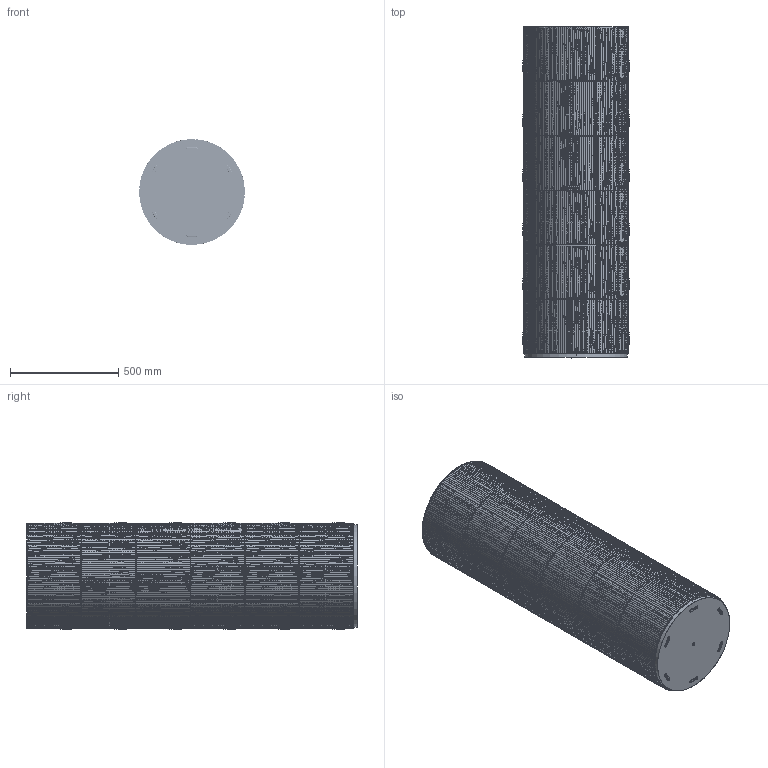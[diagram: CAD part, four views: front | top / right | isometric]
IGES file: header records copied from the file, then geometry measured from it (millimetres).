
Start section: SolidWorks IGES file using analytic representation for surfaces
Global section: file name: \\192.168.0.53\Reserch Development\SITO WEB\2024\FFG26A~6\Prodotti\3D\De Castelli - 3D - Pandora Ordita.da155.igs; native system: SolidWorks 2025; preprocessor: SolidWorks 2025; author: lauraa; date: 260130.163328; units: millimetre
Bounding box: 490.32 x 1534.2 x 490.32 mm (x, y, z)
Surface area: 11027610.5 mm2 (no closed solid volume)
Topology: 0 solids, 0 shells, 2863 faces, 46309 edges, 46309 vertices
Faces by surface type: bspline 2777, revolution 86
